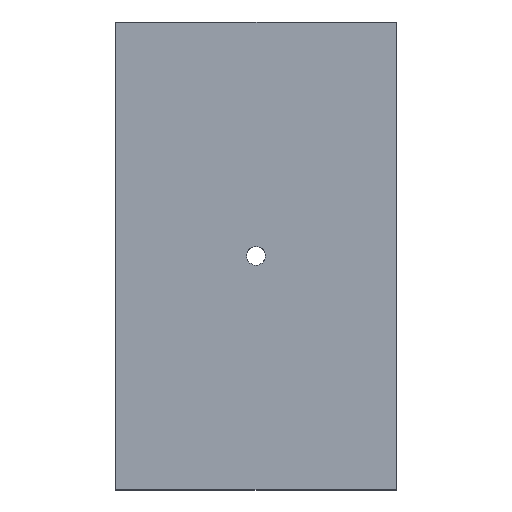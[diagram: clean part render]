
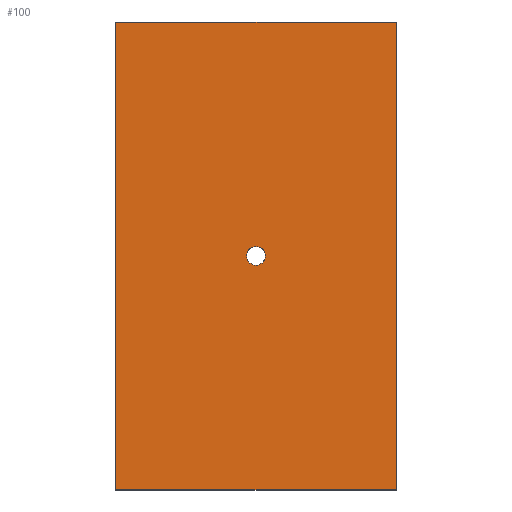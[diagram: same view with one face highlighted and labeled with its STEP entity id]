
A CAD part, top view. The second image highlights one B-rep face of the part: STEP entity #100.
In plain terms, the highlighted planar face has unit normal (0, 0, 1).
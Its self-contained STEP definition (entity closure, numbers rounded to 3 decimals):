
#66=FACE_BOUND('',#209,.T.);
#67=FACE_BOUND('',#210,.T.);
#84=PLANE('',#839);
#100=ADVANCED_FACE('',(#66,#67),#84,.T.);
#209=EDGE_LOOP('',(#391));
#210=EDGE_LOOP('',(#392,#393,#394,#395));
#263=CIRCLE('',#838,2.);
#291=LINE('',#1178,#333);
#295=LINE('',#1186,#337);
#298=LINE('',#1192,#340);
#300=LINE('',#1195,#342);
#333=VECTOR('',#939,1.);
#337=VECTOR('',#945,1.);
#340=VECTOR('',#950,1.);
#342=VECTOR('',#954,1.);
#391=ORIENTED_EDGE('',*,*,#693,.T.);
#392=ORIENTED_EDGE('',*,*,#683,.T.);
#393=ORIENTED_EDGE('',*,*,#687,.T.);
#394=ORIENTED_EDGE('',*,*,#690,.T.);
#395=ORIENTED_EDGE('',*,*,#692,.T.);
#609=VERTEX_POINT('',#1177);
#610=VERTEX_POINT('',#1179);
#612=VERTEX_POINT('',#1185);
#614=VERTEX_POINT('',#1191);
#615=VERTEX_POINT('',#1198);
#683=EDGE_CURVE('',#610,#609,#291,.T.);
#687=EDGE_CURVE('',#609,#612,#295,.T.);
#690=EDGE_CURVE('',#612,#614,#298,.T.);
#692=EDGE_CURVE('',#614,#610,#300,.T.);
#693=EDGE_CURVE('',#615,#615,#263,.T.);
#838=AXIS2_PLACEMENT_3D('',#1197,#957,#958);
#839=AXIS2_PLACEMENT_3D('',#1199,#959,#960);
#939=DIRECTION('',(0.,-1.,0.));
#945=DIRECTION('',(1.,0.,0.));
#950=DIRECTION('',(0.,1.,0.));
#954=DIRECTION('',(-1.,0.,0.));
#957=DIRECTION('',(0.,0.,-1.));
#958=DIRECTION('',(-1.,0.,0.));
#959=DIRECTION('',(0.,0.,1.));
#960=DIRECTION('',(1.,0.,0.));
#1177=CARTESIAN_POINT('',(-60.,-100.,30.));
#1178=CARTESIAN_POINT('',(-60.,0.,30.));
#1179=CARTESIAN_POINT('',(-60.,0.,30.));
#1185=CARTESIAN_POINT('',(0.,-100.,30.));
#1186=CARTESIAN_POINT('',(-60.,-100.,30.));
#1191=CARTESIAN_POINT('',(0.,0.,30.));
#1192=CARTESIAN_POINT('',(0.,-100.,30.));
#1195=CARTESIAN_POINT('',(0.,0.,30.));
#1197=CARTESIAN_POINT('',(-30.,-50.,30.));
#1198=CARTESIAN_POINT('',(-32.,-50.,30.));
#1199=CARTESIAN_POINT('',(0.,0.,30.));
